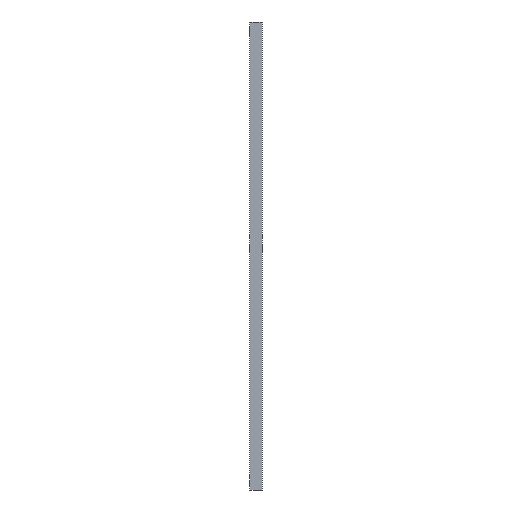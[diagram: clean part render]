
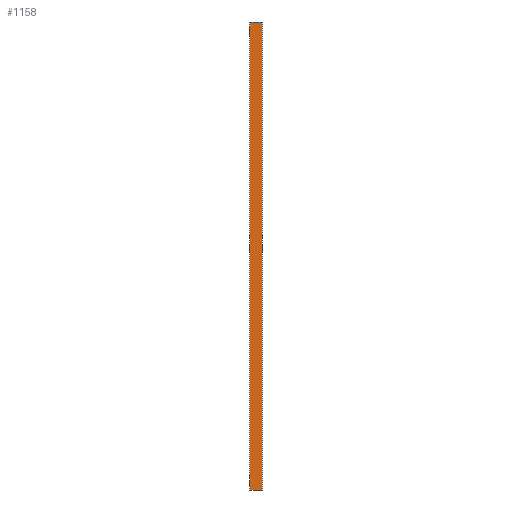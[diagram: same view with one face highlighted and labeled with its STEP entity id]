
A CAD part, left-side view. The second image highlights one B-rep face of the part: STEP entity #1158.
In plain terms, the highlighted planar face has unit normal (-1, 0, 0).
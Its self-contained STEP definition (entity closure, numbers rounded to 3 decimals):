
#51 = CARTESIAN_POINT ( 'NONE',  ( -8., 12.5, 479. ) ) ;
#65 = EDGE_CURVE ( 'NONE', #479, #168, #934, .T. ) ;
#88 = DIRECTION ( 'NONE',  ( 0., 0., -1. ) ) ;
#138 = EDGE_CURVE ( 'NONE', #639, #1138, #457, .T. ) ;
#148 = VERTEX_POINT ( 'NONE', #1335 ) ;
#162 = VECTOR ( 'NONE', #1265, 1000. ) ;
#168 = VERTEX_POINT ( 'NONE', #549 ) ;
#192 = VECTOR ( 'NONE', #484, 1000. ) ;
#211 = VECTOR ( 'NONE', #1137, 1000. ) ;
#229 = EDGE_CURVE ( 'NONE', #1084, #1018, #665, .T. ) ;
#232 = VECTOR ( 'NONE', #1187, 1000. ) ;
#233 = CARTESIAN_POINT ( 'NONE',  ( -8., 0., 479. ) ) ;
#239 = PLANE ( 'NONE',  #1032 ) ;
#244 = EDGE_CURVE ( 'NONE', #639, #328, #616, .T. ) ;
#254 = CARTESIAN_POINT ( 'NONE',  ( -8., 9.3, 0. ) ) ;
#255 = ORIENTED_EDGE ( 'NONE', *, *, #1292, .T. ) ;
#258 = LINE ( 'NONE', #698, #211 ) ;
#277 = EDGE_CURVE ( 'NONE', #479, #1084, #662, .T. ) ;
#288 = CARTESIAN_POINT ( 'NONE',  ( -8., 0., 479. ) ) ;
#328 = VERTEX_POINT ( 'NONE', #288 ) ;
#377 = CARTESIAN_POINT ( 'NONE',  ( -8., 12.5, 0. ) ) ;
#384 = CARTESIAN_POINT ( 'NONE',  ( -8., 0., 479. ) ) ;
#385 = ORIENTED_EDGE ( 'NONE', *, *, #1090, .F. ) ;
#388 = EDGE_CURVE ( 'NONE', #1138, #148, #726, .T. ) ;
#436 = LINE ( 'NONE', #846, #542 ) ;
#457 = LINE ( 'NONE', #233, #517 ) ;
#479 = VERTEX_POINT ( 'NONE', #768 ) ;
#484 = DIRECTION ( 'NONE',  ( 0., 1., 0. ) ) ;
#486 = DIRECTION ( 'NONE',  ( 0., 0., 1. ) ) ;
#507 = EDGE_LOOP ( 'NONE', ( #972, #1120, #385, #1355, #962, #703, #255, #1412 ) ) ;
#517 = VECTOR ( 'NONE', #538, 1000. ) ;
#538 = DIRECTION ( 'NONE',  ( 0., 1., 0. ) ) ;
#542 = VECTOR ( 'NONE', #88, 1000. ) ;
#549 = CARTESIAN_POINT ( 'NONE',  ( -8., 0., 0. ) ) ;
#616 = LINE ( 'NONE', #384, #722 ) ;
#639 = VERTEX_POINT ( 'NONE', #669 ) ;
#645 = CARTESIAN_POINT ( 'NONE',  ( -8., 0., 0. ) ) ;
#662 = LINE ( 'NONE', #1375, #232 ) ;
#665 = LINE ( 'NONE', #1273, #162 ) ;
#669 = CARTESIAN_POINT ( 'NONE',  ( -8., 3.2, 479. ) ) ;
#674 = VECTOR ( 'NONE', #1076, 1000. ) ;
#684 = CARTESIAN_POINT ( 'NONE',  ( -8., 0., 479. ) ) ;
#698 = CARTESIAN_POINT ( 'NONE',  ( -8., 0., 479. ) ) ;
#703 = ORIENTED_EDGE ( 'NONE', *, *, #388, .T. ) ;
#722 = VECTOR ( 'NONE', #945, 1000. ) ;
#726 = LINE ( 'NONE', #51, #192 ) ;
#768 = CARTESIAN_POINT ( 'NONE',  ( -8., 3.2, 0. ) ) ;
#846 = CARTESIAN_POINT ( 'NONE',  ( -8., 12.5, 479. ) ) ;
#905 = FACE_OUTER_BOUND ( 'NONE', #507, .T. ) ;
#934 = LINE ( 'NONE', #645, #674 ) ;
#945 = DIRECTION ( 'NONE',  ( 0., -1., 0. ) ) ;
#962 = ORIENTED_EDGE ( 'NONE', *, *, #138, .T. ) ;
#972 = ORIENTED_EDGE ( 'NONE', *, *, #277, .F. ) ;
#1018 = VERTEX_POINT ( 'NONE', #377 ) ;
#1032 = AXIS2_PLACEMENT_3D ( 'NONE', #684, #1350, #486 ) ;
#1076 = DIRECTION ( 'NONE',  ( 0., -1., 0. ) ) ;
#1084 = VERTEX_POINT ( 'NONE', #254 ) ;
#1090 = EDGE_CURVE ( 'NONE', #328, #168, #258, .T. ) ;
#1120 = ORIENTED_EDGE ( 'NONE', *, *, #65, .T. ) ;
#1137 = DIRECTION ( 'NONE',  ( 0., 0., -1. ) ) ;
#1138 = VERTEX_POINT ( 'NONE', #1170 ) ;
#1158 = ADVANCED_FACE ( 'NONE', ( #905 ), #239, .T. ) ;
#1170 = CARTESIAN_POINT ( 'NONE',  ( -8., 9.3, 479. ) ) ;
#1187 = DIRECTION ( 'NONE',  ( 0., 1., 0. ) ) ;
#1265 = DIRECTION ( 'NONE',  ( 0., 1., 0. ) ) ;
#1273 = CARTESIAN_POINT ( 'NONE',  ( -8., 0., 0. ) ) ;
#1292 = EDGE_CURVE ( 'NONE', #148, #1018, #436, .T. ) ;
#1335 = CARTESIAN_POINT ( 'NONE',  ( -8., 12.5, 479. ) ) ;
#1350 = DIRECTION ( 'NONE',  ( -1., 0., 0. ) ) ;
#1355 = ORIENTED_EDGE ( 'NONE', *, *, #244, .F. ) ;
#1375 = CARTESIAN_POINT ( 'NONE',  ( -8., 0., 0. ) ) ;
#1412 = ORIENTED_EDGE ( 'NONE', *, *, #229, .F. ) ;
